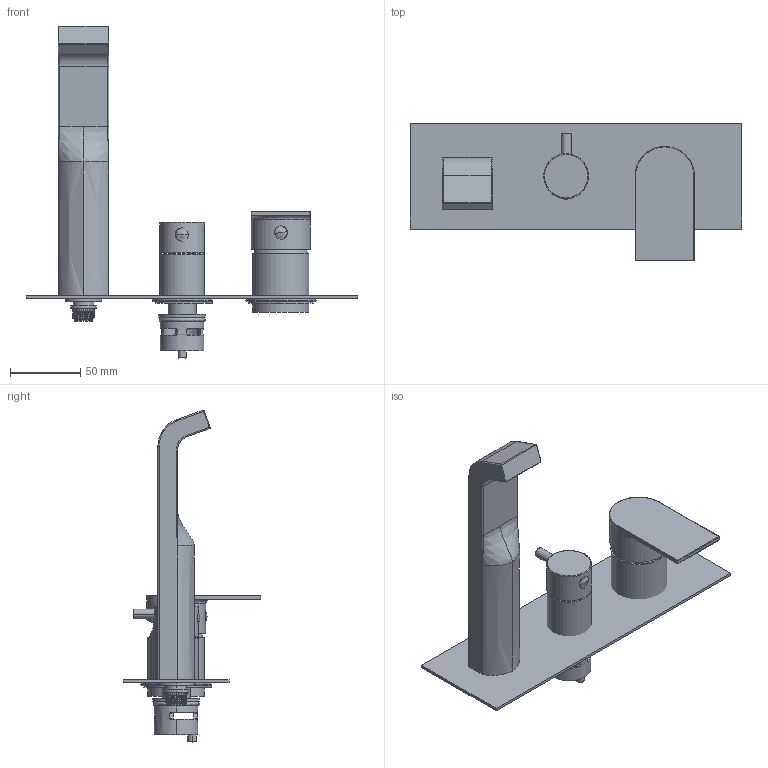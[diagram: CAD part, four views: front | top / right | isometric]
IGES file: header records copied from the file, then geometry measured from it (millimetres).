
Start section:  PTC IGES file: 83528v2_sw0001.igs
Global section: file name: 83528v2_sw0001.igs; native system: Creo Parametric by PTC Inc.; preprocessor: 2022014; author: volponeff; organization: Unknown; date: 20230601.085932; units: millimetre
Bounding box: 235 x 97.5 x 235.54 mm (x, y, z)
Surface area: 104114.7 mm2 (no closed solid volume)
Topology: 0 solids, 0 shells, 206 faces, 1023 edges, 1019 vertices
Faces by surface type: revolution 140, bspline 66
